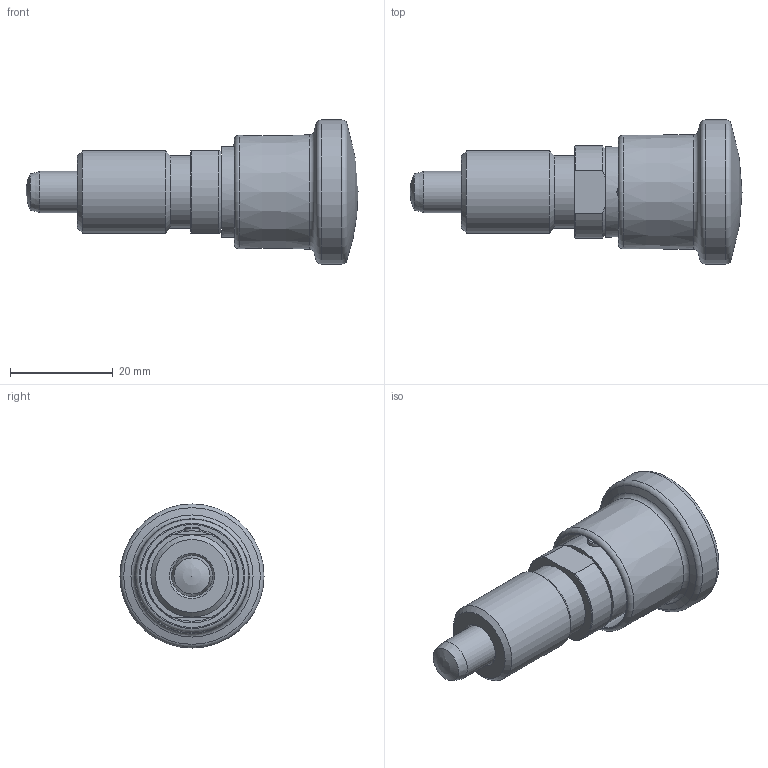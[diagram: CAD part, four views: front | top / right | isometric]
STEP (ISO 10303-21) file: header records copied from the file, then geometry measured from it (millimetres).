
FILE_DESCRIPTION( ( 'STEP AP203' ), '1' );
FILE_NAME( 'C:/Temp/Ganter_Step_05_03_2020/data/3_1/gn816_1/gn_816_1_a/Locking plunger GN 816.1-8-M16x1,5-A (activated).stp', '2020-03-12T08:56:08', ( 'License CC BY-ND 4.0' ), ( 'CADENAS' ), ' ', 'PARTsolutions', ' ' );
FILE_SCHEMA( ( 'CONFIG_CONTROL_DESIGN' ) );
Length unit declared in the file: millimetre
Products named in the file (3): Locking plunger GN 816.1-8-M16x1,5-A (activated); _GN 816.1-8-M16x1,5-A(1)-a2; _GN 816.1-8-M16x1,5-A-a1
Assembly tree (2 placements, depth 2):
  Locking plunger GN 816.1-8-M16x1,5-A (activated)
    _GN 816.1-8-M16x1,5-A(1)-a2
    _GN 816.1-8-M16x1,5-A-a1
Bounding box: 64.5 x 28 x 28 mm (x, y, z)
Volume: 14284.4 mm3; surface area: 10437.1 mm2
Topology: 2 solids, 2 shells, 54 faces, 112 edges, 70 vertices
Faces by surface type: cone 17, cylinder 15, plane 14, torus 6, sphere 2
Full cylindrical faces by diameter (mm): 2.9 x1, 3 x2, 8 x2, 11 x1, 11.1 x1, 14.2 x2, 16 x1, 18.2 x1, 20.017 x1, 28 x1
Entity records: 1570 total; most frequent: CARTESIAN_POINT 468, DIRECTION 220, ORIENTED_EDGE 140, AXIS2_PLACEMENT_3D 106, EDGE_LOOP 102, FACE_OUTER_BOUND 73, EDGE_CURVE 70, VERTEX_POINT 64
